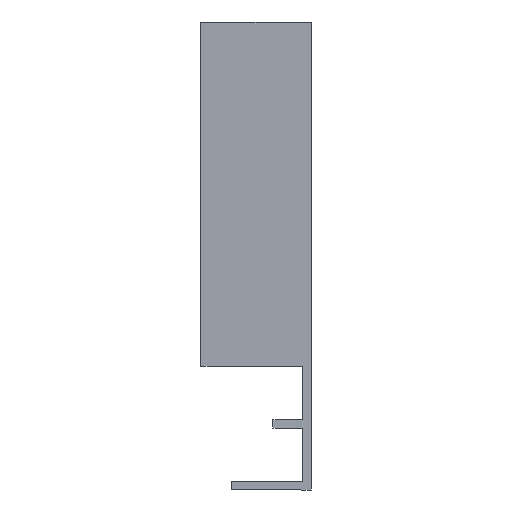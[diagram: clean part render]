
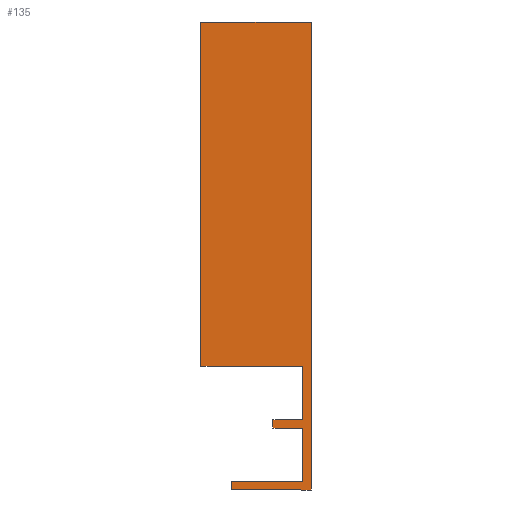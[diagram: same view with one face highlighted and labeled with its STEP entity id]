
A CAD part, left-side view. The second image highlights one B-rep face of the part: STEP entity #135.
In plain terms, the highlighted planar face has unit normal (-1, 0, 0).
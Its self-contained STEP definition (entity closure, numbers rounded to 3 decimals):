
#2 = VERTEX_POINT ( 'NONE', #15 ) ;
#9 = VERTEX_POINT ( 'NONE', #13 ) ;
#13 = CARTESIAN_POINT ( 'NONE',  ( -286.5, -4.3, -16.7 ) ) ;
#15 = CARTESIAN_POINT ( 'NONE',  ( -286.5, -4.3, -8.95 ) ) ;
#62 = DIRECTION ( 'NONE',  ( 0., 0., -1. ) ) ;
#63 = CARTESIAN_POINT ( 'NONE',  ( -286.5, 10.4, 49.7 ) ) ;
#64 = CARTESIAN_POINT ( 'NONE',  ( -286.5, 0., -8.95 ) ) ;
#66 = CARTESIAN_POINT ( 'NONE',  ( -286.5, 0., -7.75 ) ) ;
#68 = CARTESIAN_POINT ( 'NONE',  ( -286.5, -4.3, -7.75 ) ) ;
#70 = CARTESIAN_POINT ( 'NONE',  ( -286.5, -4.3, 0. ) ) ;
#74 = CARTESIAN_POINT ( 'NONE',  ( -286.5, 10.4, 49.7 ) ) ;
#76 = CARTESIAN_POINT ( 'NONE',  ( -286.5, 6., -16.7 ) ) ;
#80 = CARTESIAN_POINT ( 'NONE',  ( -286.5, 6., -17.9 ) ) ;
#82 = CARTESIAN_POINT ( 'NONE',  ( -286.5, 10.4, 0. ) ) ;
#83 = CARTESIAN_POINT ( 'NONE',  ( -286.5, -5.5, 49.7 ) ) ;
#84 = CARTESIAN_POINT ( 'NONE',  ( -286.5, -5.5, -17.9 ) ) ;
#87 = VERTEX_POINT ( 'NONE', #84 ) ;
#88 = VERTEX_POINT ( 'NONE', #83 ) ;
#89 = VERTEX_POINT ( 'NONE', #82 ) ;
#91 = VERTEX_POINT ( 'NONE', #80 ) ;
#95 = VERTEX_POINT ( 'NONE', #76 ) ;
#97 = VERTEX_POINT ( 'NONE', #74 ) ;
#101 = VERTEX_POINT ( 'NONE', #70 ) ;
#103 = VERTEX_POINT ( 'NONE', #68 ) ;
#105 = VERTEX_POINT ( 'NONE', #66 ) ;
#107 = VERTEX_POINT ( 'NONE', #64 ) ;
#108 = EDGE_CURVE ( 'NONE', #97, #89, #357, .T. ) ;
#135 = ADVANCED_FACE ( 'NONE', ( #463 ), #227, .T. ) ;
#145 = EDGE_CURVE ( 'NONE', #87, #88, #489, .T. ) ;
#151 = EDGE_CURVE ( 'NONE', #103, #105, #501, .T. ) ;
#152 = EDGE_CURVE ( 'NONE', #89, #101, #503, .T. ) ;
#153 = EDGE_CURVE ( 'NONE', #105, #107, #505, .T. ) ;
#154 = EDGE_CURVE ( 'NONE', #107, #2, #507, .T. ) ;
#155 = EDGE_CURVE ( 'NONE', #2, #9, #509, .T. ) ;
#158 = EDGE_CURVE ( 'NONE', #9, #95, #500, .T. ) ;
#176 = AXIS2_PLACEMENT_3D ( 'NONE', #230, #235, #236 ) ;
#190 = EDGE_CURVE ( 'NONE', #91, #87, #515, .T. ) ;
#191 = EDGE_CURVE ( 'NONE', #95, #91, #521, .T. ) ;
#196 = EDGE_CURVE ( 'NONE', #101, #103, #530, .T. ) ;
#201 = EDGE_CURVE ( 'NONE', #88, #97, #537, .T. ) ;
#208 = CARTESIAN_POINT ( 'NONE',  ( -286.5, -4.3, -7.75 ) ) ;
#209 = DIRECTION ( 'NONE',  ( 0., 1., 0. ) ) ;
#227 = PLANE ( 'NONE',  #176 ) ;
#230 = CARTESIAN_POINT ( 'NONE',  ( -286.5, 6., -16.7 ) ) ;
#235 = DIRECTION ( 'NONE',  ( -1., 0., 0. ) ) ;
#236 = DIRECTION ( 'NONE',  ( 0., -1., 0. ) ) ;
#257 = CARTESIAN_POINT ( 'NONE',  ( -286.5, -5.5, -17.9 ) ) ;
#258 = DIRECTION ( 'NONE',  ( 0., 0., 1. ) ) ;
#263 = CARTESIAN_POINT ( 'NONE',  ( -286.5, 0., -7.75 ) ) ;
#264 = DIRECTION ( 'NONE',  ( 0., -1., 0. ) ) ;
#265 = CARTESIAN_POINT ( 'NONE',  ( -286.5, 10.4, 0. ) ) ;
#266 = DIRECTION ( 'NONE',  ( 0., -1., 0. ) ) ;
#267 = CARTESIAN_POINT ( 'NONE',  ( -286.5, 0., -8.95 ) ) ;
#268 = DIRECTION ( 'NONE',  ( 0., 0., -1. ) ) ;
#274 = CARTESIAN_POINT ( 'NONE',  ( -286.5, -4.3, -8.95 ) ) ;
#275 = DIRECTION ( 'NONE',  ( 0., 0., -1. ) ) ;
#278 = CARTESIAN_POINT ( 'NONE',  ( -286.5, -4.3, -16.7 ) ) ;
#282 = DIRECTION ( 'NONE',  ( 0., 1., 0. ) ) ;
#290 = CARTESIAN_POINT ( 'NONE',  ( -286.5, 6., -17.9 ) ) ;
#291 = DIRECTION ( 'NONE',  ( 0., -1., 0. ) ) ;
#292 = CARTESIAN_POINT ( 'NONE',  ( -286.5, 6., -16.7 ) ) ;
#293 = DIRECTION ( 'NONE',  ( 0., 0., -1. ) ) ;
#302 = CARTESIAN_POINT ( 'NONE',  ( -286.5, -4.3, 0. ) ) ;
#303 = DIRECTION ( 'NONE',  ( 0., 0., -1. ) ) ;
#310 = CARTESIAN_POINT ( 'NONE',  ( -286.5, -5.5, 49.7 ) ) ;
#311 = DIRECTION ( 'NONE',  ( 0., 1., 0. ) ) ;
#356 = VECTOR ( 'NONE', #62, 1000. ) ;
#357 = LINE ( 'NONE', #63, #356 ) ;
#378 = ORIENTED_EDGE ( 'NONE', *, *, #155, .T. ) ;
#379 = ORIENTED_EDGE ( 'NONE', *, *, #154, .T. ) ;
#380 = ORIENTED_EDGE ( 'NONE', *, *, #153, .T. ) ;
#381 = ORIENTED_EDGE ( 'NONE', *, *, #151, .T. ) ;
#382 = ORIENTED_EDGE ( 'NONE', *, *, #196, .T. ) ;
#383 = ORIENTED_EDGE ( 'NONE', *, *, #152, .T. ) ;
#384 = ORIENTED_EDGE ( 'NONE', *, *, #108, .T. ) ;
#385 = ORIENTED_EDGE ( 'NONE', *, *, #201, .T. ) ;
#386 = ORIENTED_EDGE ( 'NONE', *, *, #145, .T. ) ;
#387 = ORIENTED_EDGE ( 'NONE', *, *, #190, .T. ) ;
#388 = ORIENTED_EDGE ( 'NONE', *, *, #191, .T. ) ;
#389 = ORIENTED_EDGE ( 'NONE', *, *, #158, .T. ) ;
#417 = EDGE_LOOP ( 'NONE', ( #389, #388, #387, #386, #385, #384, #383, #382, #381, #380, #379, #378 ) ) ;
#463 = FACE_OUTER_BOUND ( 'NONE', #417, .T. ) ;
#489 = LINE ( 'NONE', #257, #490 ) ;
#490 = VECTOR ( 'NONE', #258, 1000. ) ;
#500 = LINE ( 'NONE', #278, #514 ) ;
#501 = LINE ( 'NONE', #208, #502 ) ;
#502 = VECTOR ( 'NONE', #209, 1000. ) ;
#503 = LINE ( 'NONE', #265, #504 ) ;
#504 = VECTOR ( 'NONE', #264, 1000. ) ;
#505 = LINE ( 'NONE', #263, #506 ) ;
#506 = VECTOR ( 'NONE', #268, 1000. ) ;
#507 = LINE ( 'NONE', #267, #508 ) ;
#508 = VECTOR ( 'NONE', #266, 1000. ) ;
#509 = LINE ( 'NONE', #274, #510 ) ;
#510 = VECTOR ( 'NONE', #275, 1000. ) ;
#514 = VECTOR ( 'NONE', #282, 1000. ) ;
#515 = LINE ( 'NONE', #290, #517 ) ;
#517 = VECTOR ( 'NONE', #291, 1000. ) ;
#521 = LINE ( 'NONE', #292, #522 ) ;
#522 = VECTOR ( 'NONE', #293, 1000. ) ;
#530 = LINE ( 'NONE', #302, #531 ) ;
#531 = VECTOR ( 'NONE', #303, 1000. ) ;
#537 = LINE ( 'NONE', #310, #538 ) ;
#538 = VECTOR ( 'NONE', #311, 1000. ) ;
